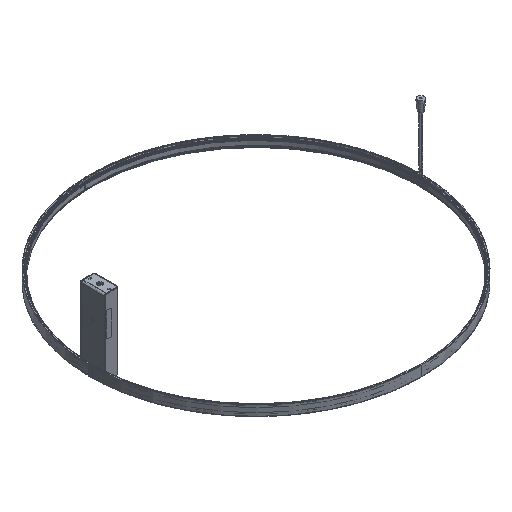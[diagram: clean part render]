
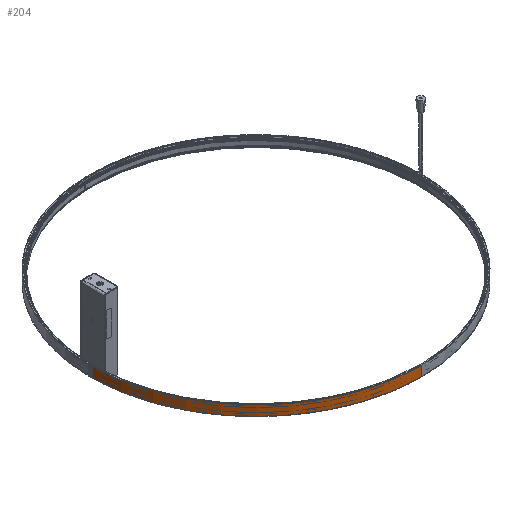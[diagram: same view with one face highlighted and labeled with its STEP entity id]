
A CAD part, isometric view. The second image highlights one B-rep face of the part: STEP entity #204.
In plain terms, the highlighted free-form (B-spline) face has degree [2, 1] with [9, 2] control points.
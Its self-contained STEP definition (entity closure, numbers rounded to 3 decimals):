
#204=ADVANCED_FACE('',(#686),#7255,.T.);
#686=FACE_OUTER_BOUND('',#1168,.T.);
#1168=EDGE_LOOP('',(#2006,#2007,#2008,#2009,#2010,#2011));
#2006=ORIENTED_EDGE('',*,*,#4056,.F.);
#2007=ORIENTED_EDGE('',*,*,#4018,.F.);
#2008=ORIENTED_EDGE('',*,*,#4123,.T.);
#2009=ORIENTED_EDGE('',*,*,#4166,.T.);
#2010=ORIENTED_EDGE('',*,*,#4167,.T.);
#2011=ORIENTED_EDGE('',*,*,#4168,.T.);
#4018=EDGE_CURVE('',#6359,#6353,#5183,.T.);
#4056=EDGE_CURVE('',#6353,#6342,#5685,.T.);
#4123=EDGE_CURVE('',#6359,#6427,#5721,.T.);
#4166=EDGE_CURVE('',#6427,#6456,#5749,.T.);
#4167=EDGE_CURVE('',#6456,#6457,#5750,.T.);
#4168=EDGE_CURVE('',#6457,#6342,#5267,.T.);
#5183=(
BOUNDED_CURVE()
B_SPLINE_CURVE(2,(#13235,#13236,#13237),.UNSPECIFIED.,.F.,.F.)
B_SPLINE_CURVE_WITH_KNOTS((3,3),(0.,767.334),.UNSPECIFIED.)
CURVE()
GEOMETRIC_REPRESENTATION_ITEM()
RATIONAL_B_SPLINE_CURVE((1.,0.707,1.))
REPRESENTATION_ITEM('')
);
#5267=(
BOUNDED_CURVE()
B_SPLINE_CURVE(2,(#13770,#13771,#13772),.UNSPECIFIED.,.F.,.F.)
B_SPLINE_CURVE_WITH_KNOTS((3,3),(0.,767.334),.UNSPECIFIED.)
CURVE()
GEOMETRIC_REPRESENTATION_ITEM()
RATIONAL_B_SPLINE_CURVE((1.,0.707,1.))
REPRESENTATION_ITEM('')
);
#5685=B_SPLINE_CURVE_WITH_KNOTS('',1,(#13367,#13368),.UNSPECIFIED.,.F.,
 .F.,(2,2),(0.,29.6),.UNSPECIFIED.);
#5721=B_SPLINE_CURVE_WITH_KNOTS('',1,(#13608,#13609),.UNSPECIFIED.,.F.,
 .F.,(2,2),(-10.1,0.),.UNSPECIFIED.);
#5749=B_SPLINE_CURVE_WITH_KNOTS('',3,(#13734,#13735,#13736,#13737,#13738,
#13739,#13740,#13741,#13742,#13743,#13744,#13745,#13746,#13747,#13748,#13749,
#13750,#13751,#13752,#13753,#13754,#13755,#13756,#13757,#13758,#13759,#13760,
#13761,#13762,#13763,#13764,#13765,#13766,#13767),.UNSPECIFIED.,.F.,.F.,
(4,2,2,2,2,2,2,2,2,2,2,2,2,2,2,2,4),(0.,0.922,1.844,
2.766,3.689,4.611,5.533,6.455,
7.377,8.299,9.221,10.143,11.066,
11.988,12.91,13.832,14.754),
 .UNSPECIFIED.);
#5750=B_SPLINE_CURVE_WITH_KNOTS('',1,(#13768,#13769),.UNSPECIFIED.,.F.,
 .F.,(2,2),(0.,10.1),.UNSPECIFIED.);
#6342=VERTEX_POINT('',#12845);
#6353=VERTEX_POINT('',#12856);
#6359=VERTEX_POINT('',#12862);
#6427=VERTEX_POINT('',#12930);
#6456=VERTEX_POINT('',#12959);
#6457=VERTEX_POINT('',#12960);
#7255=(
BOUNDED_SURFACE()
B_SPLINE_SURFACE(2,1,((#11512,#11513),(#11514,#11515),(#11516,#11517),(#11518,
#11519),(#11520,#11521),(#11522,#11523),(#11524,#11525),(#11526,#11527),
(#11528,#11529)),.UNSPECIFIED.,.T.,.F.,.F.)
B_SPLINE_SURFACE_WITH_KNOTS((3,2,2,2,3),(2,2),(0.,767.334,1534.668,
2302.002,3069.336),(0.,35.52),.UNSPECIFIED.)
GEOMETRIC_REPRESENTATION_ITEM()
RATIONAL_B_SPLINE_SURFACE(((1.,1.),(0.707,0.707),
(1.,1.),(0.707,0.707),(1.,1.),(0.707,
0.707),(1.,1.),(0.707,0.707),(1.,1.)))
REPRESENTATION_ITEM('')
SURFACE()
);
#11512=CARTESIAN_POINT('',(0.,-17.76,488.5));
#11513=CARTESIAN_POINT('',(0.,17.76,488.5));
#11514=CARTESIAN_POINT('',(488.5,-17.76,488.5));
#11515=CARTESIAN_POINT('',(488.5,17.76,488.5));
#11516=CARTESIAN_POINT('',(488.5,-17.76,0.));
#11517=CARTESIAN_POINT('',(488.5,17.76,0.));
#11518=CARTESIAN_POINT('',(488.5,-17.76,-488.5));
#11519=CARTESIAN_POINT('',(488.5,17.76,-488.5));
#11520=CARTESIAN_POINT('',(0.,-17.76,-488.5));
#11521=CARTESIAN_POINT('',(0.,17.76,-488.5));
#11522=CARTESIAN_POINT('',(-488.5,-17.76,-488.5));
#11523=CARTESIAN_POINT('',(-488.5,17.76,-488.5));
#11524=CARTESIAN_POINT('',(-488.5,-17.76,0.));
#11525=CARTESIAN_POINT('',(-488.5,17.76,0.));
#11526=CARTESIAN_POINT('',(-488.5,-17.76,488.5));
#11527=CARTESIAN_POINT('',(-488.5,17.76,488.5));
#11528=CARTESIAN_POINT('',(0.,-17.76,488.5));
#11529=CARTESIAN_POINT('',(0.,17.76,488.5));
#12845=CARTESIAN_POINT('',(0.,14.8,-488.5));
#12856=CARTESIAN_POINT('',(0.,-14.8,-488.5));
#12862=CARTESIAN_POINT('',(-488.5,-14.8,0.));
#12930=CARTESIAN_POINT('',(-488.5,-4.7,0.));
#12959=CARTESIAN_POINT('',(-488.5,4.7,0.));
#12960=CARTESIAN_POINT('',(-488.5,14.8,0.));
#13235=CARTESIAN_POINT('',(-488.5,-14.8,0.));
#13236=CARTESIAN_POINT('',(-488.5,-14.8,-488.5));
#13237=CARTESIAN_POINT('',(0.,-14.8,-488.5));
#13367=CARTESIAN_POINT('',(0.,-14.8,-488.5));
#13368=CARTESIAN_POINT('',(0.,14.8,-488.5));
#13608=CARTESIAN_POINT('',(-488.5,-14.8,0.));
#13609=CARTESIAN_POINT('',(-488.5,-4.7,0.));
#13734=CARTESIAN_POINT('',(-488.5,-4.7,0.));
#13735=CARTESIAN_POINT('',(-488.5,-4.7,-0.305));
#13736=CARTESIAN_POINT('',(-488.5,-4.67,-0.614));
#13737=CARTESIAN_POINT('',(-488.499,-4.549,-1.217));
#13738=CARTESIAN_POINT('',(-488.498,-4.459,-1.509));
#13739=CARTESIAN_POINT('',(-488.496,-4.224,-2.074));
#13740=CARTESIAN_POINT('',(-488.494,-4.076,-2.349));
#13741=CARTESIAN_POINT('',(-488.492,-3.734,-2.858));
#13742=CARTESIAN_POINT('',(-488.49,-3.539,-3.094));
#13743=CARTESIAN_POINT('',(-488.487,-3.099,-3.53));
#13744=CARTESIAN_POINT('',(-488.486,-2.861,-3.724));
#13745=CARTESIAN_POINT('',(-488.483,-2.347,-4.064));
#13746=CARTESIAN_POINT('',(-488.482,-2.073,-4.209));
#13747=CARTESIAN_POINT('',(-488.48,-1.508,-4.441));
#13748=CARTESIAN_POINT('',(-488.479,-1.215,-4.529));
#13749=CARTESIAN_POINT('',(-488.478,-0.608,-4.649));
#13750=CARTESIAN_POINT('',(-488.478,-0.303,-4.678));
#13751=CARTESIAN_POINT('',(-488.478,0.308,-4.677));
#13752=CARTESIAN_POINT('',(-488.478,0.617,-4.647));
#13753=CARTESIAN_POINT('',(-488.479,1.22,-4.528));
#13754=CARTESIAN_POINT('',(-488.48,1.512,-4.439));
#13755=CARTESIAN_POINT('',(-488.482,2.079,-4.206));
#13756=CARTESIAN_POINT('',(-488.483,2.354,-4.06));
#13757=CARTESIAN_POINT('',(-488.486,2.864,-3.721));
#13758=CARTESIAN_POINT('',(-488.487,3.101,-3.529));
#13759=CARTESIAN_POINT('',(-488.49,3.538,-3.095));
#13760=CARTESIAN_POINT('',(-488.492,3.735,-2.856));
#13761=CARTESIAN_POINT('',(-488.494,4.076,-2.349));
#13762=CARTESIAN_POINT('',(-488.496,4.222,-2.078));
#13763=CARTESIAN_POINT('',(-488.498,4.46,-1.508));
#13764=CARTESIAN_POINT('',(-488.499,4.549,-1.216));
#13765=CARTESIAN_POINT('',(-488.5,4.669,-0.617));
#13766=CARTESIAN_POINT('',(-488.5,4.7,-0.306));
#13767=CARTESIAN_POINT('',(-488.5,4.7,0.));
#13768=CARTESIAN_POINT('',(-488.5,4.7,0.));
#13769=CARTESIAN_POINT('',(-488.5,14.8,0.));
#13770=CARTESIAN_POINT('',(-488.5,14.8,0.));
#13771=CARTESIAN_POINT('',(-488.5,14.8,-488.5));
#13772=CARTESIAN_POINT('',(0.,14.8,-488.5));
